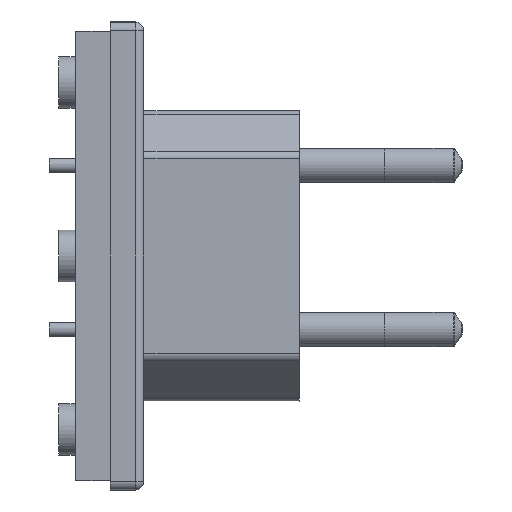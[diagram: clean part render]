
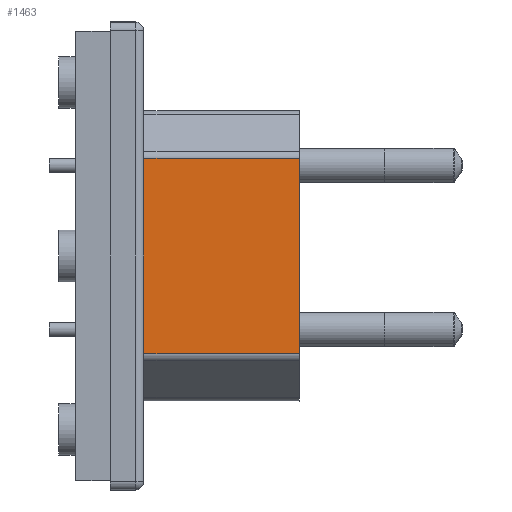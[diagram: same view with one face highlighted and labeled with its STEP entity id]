
A CAD part, left-side view. The second image highlights one B-rep face of the part: STEP entity #1463.
In plain terms, the highlighted planar face has unit normal (-1, 0, 0).
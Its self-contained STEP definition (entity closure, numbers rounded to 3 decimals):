
#25 = VECTOR ( 'NONE', #3941, 1000. ) ;
#38 = EDGE_CURVE ( 'NONE', #3654, #4136, #4633, .T. ) ;
#170 = DIRECTION ( 'NONE',  ( 0., 0., -1. ) ) ;
#200 = LINE ( 'NONE', #2401, #25 ) ;
#205 = CARTESIAN_POINT ( 'NONE',  ( -35.575, 0., 11.75 ) ) ;
#706 = ORIENTED_EDGE ( 'NONE', *, *, #1823, .T. ) ;
#973 = EDGE_CURVE ( 'NONE', #1619, #4136, #200, .T. ) ;
#1230 = VECTOR ( 'NONE', #1893, 1000. ) ;
#1239 = CARTESIAN_POINT ( 'NONE',  ( -35.575, 0., -11.295 ) ) ;
#1463 = ADVANCED_FACE ( 'NONE', ( #1595 ), #4504, .F. ) ;
#1493 = CARTESIAN_POINT ( 'NONE',  ( -35.575, -18., -11.295 ) ) ;
#1508 = CARTESIAN_POINT ( 'NONE',  ( -35.575, -18., 11.295 ) ) ;
#1521 = DIRECTION ( 'NONE',  ( 0., -1., 0. ) ) ;
#1552 = LINE ( 'NONE', #205, #1654 ) ;
#1561 = EDGE_LOOP ( 'NONE', ( #4818, #2399, #706, #4846 ) ) ;
#1595 = FACE_OUTER_BOUND ( 'NONE', #1561, .T. ) ;
#1619 = VERTEX_POINT ( 'NONE', #2626 ) ;
#1654 = VECTOR ( 'NONE', #170, 1000. ) ;
#1823 = EDGE_CURVE ( 'NONE', #2266, #3654, #1552, .T. ) ;
#1893 = DIRECTION ( 'NONE',  ( 0., 1., 0. ) ) ;
#2266 = VERTEX_POINT ( 'NONE', #4660 ) ;
#2335 = LINE ( 'NONE', #1508, #1230 ) ;
#2399 = ORIENTED_EDGE ( 'NONE', *, *, #4465, .T. ) ;
#2401 = CARTESIAN_POINT ( 'NONE',  ( -35.575, -18., 11.75 ) ) ;
#2626 = CARTESIAN_POINT ( 'NONE',  ( -35.575, -18., 11.295 ) ) ;
#3272 = CARTESIAN_POINT ( 'NONE',  ( -35.575, -18., -11.295 ) ) ;
#3654 = VERTEX_POINT ( 'NONE', #1239 ) ;
#3941 = DIRECTION ( 'NONE',  ( 0., 0., -1. ) ) ;
#4035 = AXIS2_PLACEMENT_3D ( 'NONE', #4544, #4486, #4468 ) ;
#4136 = VERTEX_POINT ( 'NONE', #3272 ) ;
#4465 = EDGE_CURVE ( 'NONE', #1619, #2266, #2335, .T. ) ;
#4468 = DIRECTION ( 'NONE',  ( 0., 0., -1. ) ) ;
#4486 = DIRECTION ( 'NONE',  ( 1., 0., 0. ) ) ;
#4504 = PLANE ( 'NONE',  #4035 ) ;
#4544 = CARTESIAN_POINT ( 'NONE',  ( -35.575, -18., 11.75 ) ) ;
#4633 = LINE ( 'NONE', #1493, #4709 ) ;
#4660 = CARTESIAN_POINT ( 'NONE',  ( -35.575, 0., 11.295 ) ) ;
#4709 = VECTOR ( 'NONE', #1521, 1000. ) ;
#4818 = ORIENTED_EDGE ( 'NONE', *, *, #973, .F. ) ;
#4846 = ORIENTED_EDGE ( 'NONE', *, *, #38, .T. ) ;
